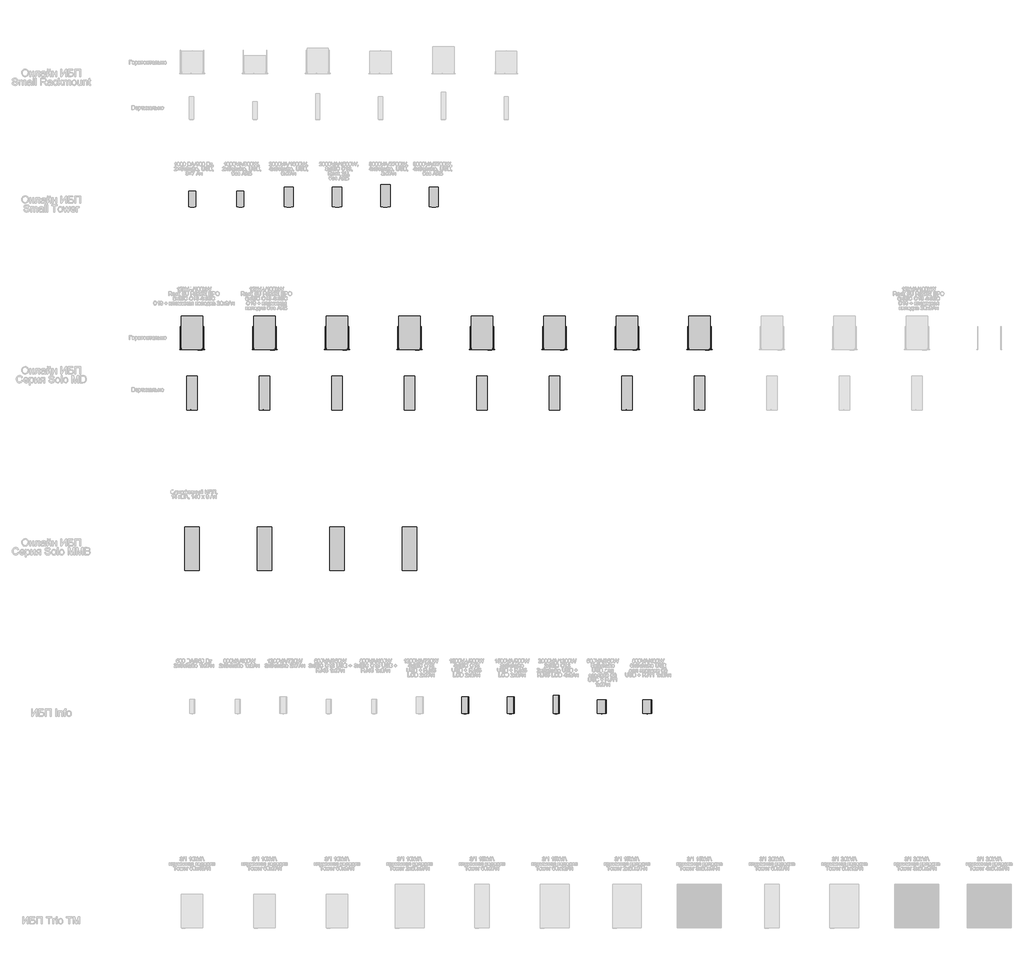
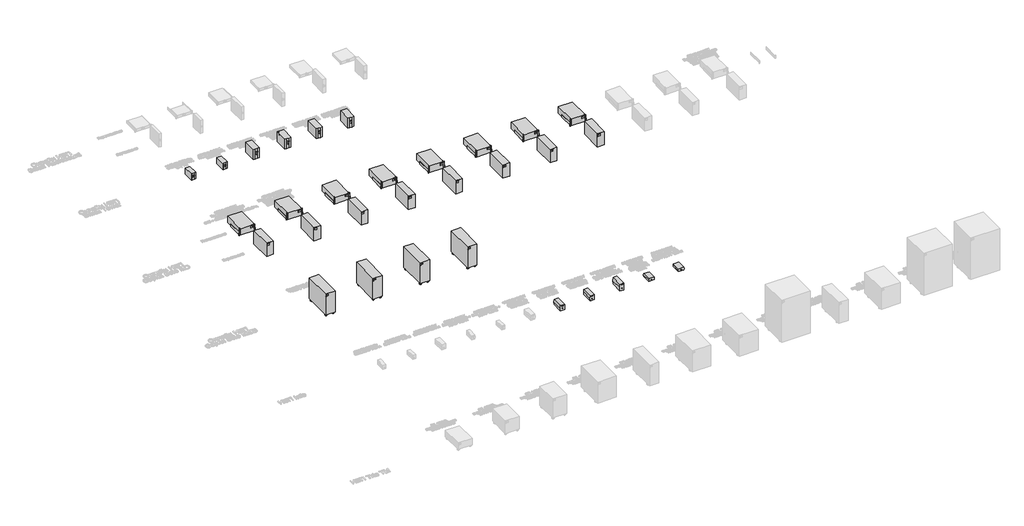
# One storey, part 2 of 74: 138 proxies.
"""IFC4 building model written with IfcOpenShell, lengths in millimetres."""

from ifc_helpers import new_model, si_unit, origin, place, context, project, spatial, transform, mapped, element, save
from components import electrical_equipment_6c59c8ee, electrical_equipment_fbf8d0cd, electrical_equipment_228549ca, electrical_equipment_7379c805, electrical_equipment_2a145548, electrical_equipment_1890145e, electrical_equipment_459813d2, electrical_equipment_41c59be0, electrical_equipment_2c9e7c44, electrical_equipment_71196d91, electrical_equipment_f6df29bd, electrical_equipment_1e044531, electrical_equipment_7d37a404, as400_464786aa

model = new_model("IFC4")

# Units and contexts
model_context = context("Model", 3, world=origin())
ifc_project = project(units=[si_unit("LENGTHUNIT", "METRE", prefix="MILLI")], contexts=[model_context])

# Site, building, storey
site = spatial("IfcSite", under=ifc_project)
building = spatial("IfcBuilding", under=site)
storey = spatial("IfcBuildingStorey", under=building, Name="Этаж 01", Elevation=0.0)

# Proxies
placement = place(None, origin())
electrical_equipment_shape = electrical_equipment_6c59c8ee(model_context)
element("IfcBuildingElementProxy", 1, Name="Ролики серия Solo : FONRMMD", ObjectType="Ролики серия Solo : FONRMMD", at=placement, inside=storey, context=model_context, shape_type="MappedRepresentation", body=[
    mapped(electrical_equipment_shape, transform((1352.6732678, -8665.8717328, 0.0), x_axis=(-1.0, 0.0, 0.0), y_axis=(0.0, -1.0, 0.0), z_axis=(0.0, 0.0, 1.0))),
])
element("IfcBuildingElementProxy", 2, Name="Ролики серия Solo : FONRMMD", ObjectType="Ролики серия Solo : FONRMMD", at=placement, inside=storey, context=model_context, shape_type="MappedRepresentation", body=[
    mapped(electrical_equipment_shape, transform((2852.6732678, -8665.8717328, 0.0), x_axis=(-1.0, 0.0, 0.0), y_axis=(0.0, -1.0, 0.0), z_axis=(0.0, 0.0, 1.0))),
])
element("IfcBuildingElementProxy", 3, Name="Ролики серия Solo : FONRMMD", ObjectType="Ролики серия Solo : FONRMMD", at=placement, inside=storey, context=model_context, shape_type="MappedRepresentation", body=[
    mapped(electrical_equipment_shape, transform((4352.6732678, -8665.8717328, 0.0), x_axis=(-1.0, 0.0, 0.0), y_axis=(0.0, -1.0, 0.0), z_axis=(0.0, 0.0, 1.0))),
])
element("IfcBuildingElementProxy", 4, Name="Ролики серия Solo : FONRMMD", ObjectType="Ролики серия Solo : FONRMMD", at=placement, inside=storey, context=model_context, shape_type="MappedRepresentation", body=[
    mapped(electrical_equipment_shape, transform((5852.6732678, -8665.8717328, 0.0), x_axis=(-1.0, 0.0, 0.0), y_axis=(0.0, -1.0, 0.0), z_axis=(0.0, 0.0, 1.0))),
])
electrical_equipment_2_shape = electrical_equipment_fbf8d0cd(model_context)
element("IfcBuildingElementProxy", 5, Name="НВО_КНС_ОнлайнИБПSmallTower_DKC : 1000 ВА", ObjectType="НВО_КНС_ОнлайнИБПSmallTower_DKC : 1000 ВА", at=placement, inside=storey, context=model_context, shape_type="MappedRepresentation", body=[
    mapped(electrical_equipment_2_shape, transform((1352.6732678, -1593.7898298, 0.0), x_axis=(1.0, 0.0, 0.0), y_axis=(0.0, 1.0, 0.0), z_axis=(0.0, 0.0, 1.0))),
])
electrical_equipment_3_shape = electrical_equipment_228549ca(model_context)
element("IfcBuildingElementProxy", 6, Name="НВО_КНС_ОнлайнИБПSmallTower_DKC : 2000 ВА", ObjectType="НВО_КНС_ОнлайнИБПSmallTower_DKC : 2000 ВА", at=placement, inside=storey, context=model_context, shape_type="MappedRepresentation", body=[
    mapped(electrical_equipment_3_shape, transform((3352.6732678, -1593.7898298, 0.0), x_axis=(1.0, 0.0, 0.0), y_axis=(0.0, 1.0, 0.0), z_axis=(0.0, 0.0, 1.0))),
])
element("IfcBuildingElementProxy", 7, Name="НВО_КНС_ОнлайнИБПSmallTower_DKC : 2000 ВА, без АКБ", ObjectType="НВО_КНС_ОнлайнИБПSmallTower_DKC : 2000 ВА, без АКБ", at=placement, inside=storey, context=model_context, shape_type="MappedRepresentation", body=[
    mapped(electrical_equipment_3_shape, transform((4352.6732678, -1593.7898298, 0.0), x_axis=(1.0, 0.0, 0.0), y_axis=(0.0, 1.0, 0.0), z_axis=(0.0, 0.0, 1.0))),
])
electrical_equipment_4_shape = electrical_equipment_7379c805(model_context)
element("IfcBuildingElementProxy", 8, Name="НВО_КНС_ОнлайнИБПSmallTower_DKC : 3000 ВА", ObjectType="НВО_КНС_ОнлайнИБПSmallTower_DKC : 3000 ВА", at=placement, inside=storey, context=model_context, shape_type="MappedRepresentation", body=[
    mapped(electrical_equipment_4_shape, transform((5352.6732678, -1593.7898298, 0.0), x_axis=(1.0, 0.0, 0.0), y_axis=(0.0, 1.0, 0.0), z_axis=(0.0, 0.0, 1.0))),
])
element("IfcBuildingElementProxy", 9, Name="НВО_КНС_ОнлайнИБПSmallTower_DKC : 3000 ВА, без АКБ", ObjectType="НВО_КНС_ОнлайнИБПSmallTower_DKC : 3000 ВА, без АКБ", at=placement, inside=storey, context=model_context, shape_type="MappedRepresentation", body=[
    mapped(electrical_equipment_3_shape, transform((6352.6732678, -1593.7898298, 0.0), x_axis=(1.0, 0.0, 0.0), y_axis=(0.0, 1.0, 0.0), z_axis=(0.0, 0.0, 1.0))),
])
electrical_equipment_5_shape = electrical_equipment_2a145548(model_context)
element("IfcBuildingElementProxy", 10, Name="НВО_КНС_ОнлайнИБПСерияSoloMD_DKC : Solo MD 12kVA/108kW без АКБ", ObjectType="НВО_КНС_ОнлайнИБПСерияSoloMD_DKC : Solo MD 12kVA/108kW без АКБ", at=placement, inside=storey, context=model_context, shape_type="MappedRepresentation", body=[
    mapped(electrical_equipment_5_shape, transform((2852.6732678, -4545.8084587, 0.0), x_axis=(1.0, 0.0, 0.0), y_axis=(0.0, 1.0, 0.0), z_axis=(0.0, 0.0, 1.0))),
])
element("IfcBuildingElementProxy", 11, Name="НВО_КНС_ОнлайнИБПСерияSoloMD_DKC : Solo MD 4000VA/3600W без АКБ", ObjectType="НВО_КНС_ОнлайнИБПСерияSoloMD_DKC : Solo MD 4000VA/3600W без АКБ", at=placement, inside=storey, context=model_context, shape_type="MappedRepresentation", body=[
    mapped(electrical_equipment_5_shape, transform((11852.6732678, -4545.8084587, 0.0), x_axis=(1.0, 0.0, 0.0), y_axis=(0.0, 1.0, 0.0), z_axis=(0.0, 0.0, 1.0))),
])
element("IfcBuildingElementProxy", 12, Name="НВО_КНС_ОнлайнИБПСерияSoloMD_DKC : Solo MD 4000VA/3600W 12x7Ач", ObjectType="НВО_КНС_ОнлайнИБПСерияSoloMD_DKC : Solo MD 4000VA/3600W 12x7Ач", at=placement, inside=storey, context=model_context, shape_type="MappedRepresentation", body=[
    mapped(electrical_equipment_5_shape, transform((7352.6732678, -4545.8084587, 0.0), x_axis=(1.0, 0.0, 0.0), y_axis=(0.0, 1.0, 0.0), z_axis=(0.0, 0.0, 1.0))),
])
element("IfcBuildingElementProxy", 13, Name="НВО_КНС_ОнлайнИБПСерияSoloMD_DKC : Solo MD 4000VA/3600W 15x7Ач", ObjectType="НВО_КНС_ОнлайнИБПСерияSoloMD_DKC : Solo MD 4000VA/3600W 15x7Ач", at=placement, inside=storey, context=model_context, shape_type="MappedRepresentation", body=[
    mapped(electrical_equipment_5_shape, transform((8852.6732678, -4545.8084587, 0.0), x_axis=(1.0, 0.0, 0.0), y_axis=(0.0, 1.0, 0.0), z_axis=(0.0, 0.0, 1.0))),
])
element("IfcBuildingElementProxy", 14, Name="НВО_КНС_ОнлайнИБПСерияSoloMD_DKC : Solo MD 4000VA/3600W 15x9Ач", ObjectType="НВО_КНС_ОнлайнИБПСерияSoloMD_DKC : Solo MD 4000VA/3600W 15x9Ач", at=placement, inside=storey, context=model_context, shape_type="MappedRepresentation", body=[
    mapped(electrical_equipment_5_shape, transform((10352.6732678, -4545.8084587, 0.0), x_axis=(1.0, 0.0, 0.0), y_axis=(0.0, 1.0, 0.0), z_axis=(0.0, 0.0, 1.0))),
])
element("IfcBuildingElementProxy", 15, Name="НВО_КНС_ОнлайнИБПСерияSoloMD_DKC : Solo MD 4000VA/3600W 2x15x7Ач", ObjectType="НВО_КНС_ОнлайнИБПСерияSoloMD_DKC : Solo MD 4000VA/3600W 2x15x7Ач", at=placement, inside=storey, context=model_context, shape_type="MappedRepresentation", body=[
    mapped(electrical_equipment_5_shape, transform((4352.6732678, -4545.8084587, 0.0), x_axis=(1.0, 0.0, 0.0), y_axis=(0.0, 1.0, 0.0), z_axis=(0.0, 0.0, 1.0))),
])
element("IfcBuildingElementProxy", 16, Name="НВО_КНС_ОнлайнИБПСерияSoloMD_DKC : Solo MD 4000VA/3600W 2x15x9Ач", ObjectType="НВО_КНС_ОнлайнИБПСерияSoloMD_DKC : Solo MD 4000VA/3600W 2x15x9Ач", at=placement, inside=storey, context=model_context, shape_type="MappedRepresentation", body=[
    mapped(electrical_equipment_5_shape, transform((5852.6732678, -4545.8084587, 0.0), x_axis=(1.0, 0.0, 0.0), y_axis=(0.0, 1.0, 0.0), z_axis=(0.0, 0.0, 1.0))),
])
electrical_equipment_6_shape = electrical_equipment_1890145e(model_context)
element("IfcBuildingElementProxy", 17, Name="НВО_КНС_ОнлайнИБПСерияSoloMD_DKC : Solo MD 12kVA/108kW 20x9Ач", ObjectType="НВО_КНС_ОнлайнИБПСерияSoloMD_DKC : Solo MD 12kVA/108kW 20x9Ач", at=placement, inside=storey, context=model_context, shape_type="MappedRepresentation", body=[
    mapped(electrical_equipment_6_shape, transform((1352.6732678, -5790.8873535, 0.0), x_axis=(1.0, 0.0, 0.0), y_axis=(0.0, 1.0, 0.0), z_axis=(0.0, 0.0, 1.0))),
])
element("IfcBuildingElementProxy", 18, Name="НВО_КНС_ОнлайнИБПСерияSoloMD_DKC : Solo MD 12kVA/108kW без АКБ", ObjectType="НВО_КНС_ОнлайнИБПСерияSoloMD_DKC : Solo MD 12kVA/108kW без АКБ", at=placement, inside=storey, context=model_context, shape_type="MappedRepresentation", body=[
    mapped(electrical_equipment_6_shape, transform((2852.6732678, -5790.8873535, 0.0), x_axis=(1.0, 0.0, 0.0), y_axis=(0.0, 1.0, 0.0), z_axis=(0.0, 0.0, 1.0))),
])
element("IfcBuildingElementProxy", 19, Name="НВО_КНС_ОнлайнИБПСерияSoloMD_DKC : Solo MD 4000VA/3600W 2x15x7Ач", ObjectType="НВО_КНС_ОнлайнИБПСерияSoloMD_DKC : Solo MD 4000VA/3600W 2x15x7Ач", at=placement, inside=storey, context=model_context, shape_type="MappedRepresentation", body=[
    mapped(electrical_equipment_6_shape, transform((4352.6732678, -5790.8873535, 0.0), x_axis=(1.0, 0.0, 0.0), y_axis=(0.0, 1.0, 0.0), z_axis=(0.0, 0.0, 1.0))),
])
element("IfcBuildingElementProxy", 20, Name="НВО_КНС_ОнлайнИБПСерияSoloMD_DKC : Solo MD 4000VA/3600W 2x15x9Ач", ObjectType="НВО_КНС_ОнлайнИБПСерияSoloMD_DKC : Solo MD 4000VA/3600W 2x15x9Ач", at=placement, inside=storey, context=model_context, shape_type="MappedRepresentation", body=[
    mapped(electrical_equipment_6_shape, transform((5852.6732678, -5790.8873535, 0.0), x_axis=(1.0, 0.0, 0.0), y_axis=(0.0, 1.0, 0.0), z_axis=(0.0, 0.0, 1.0))),
])
element("IfcBuildingElementProxy", 21, Name="НВО_КНС_ОнлайнИБПСерияSoloMD_DKC : Solo MD 4000VA/3600W 12x7Ач", ObjectType="НВО_КНС_ОнлайнИБПСерияSoloMD_DKC : Solo MD 4000VA/3600W 12x7Ач", at=placement, inside=storey, context=model_context, shape_type="MappedRepresentation", body=[
    mapped(electrical_equipment_6_shape, transform((7352.6732678, -5790.8873535, 0.0), x_axis=(1.0, 0.0, 0.0), y_axis=(0.0, 1.0, 0.0), z_axis=(0.0, 0.0, 1.0))),
])
element("IfcBuildingElementProxy", 22, Name="НВО_КНС_ОнлайнИБПСерияSoloMD_DKC : Solo MD 4000VA/3600W 15x7Ач", ObjectType="НВО_КНС_ОнлайнИБПСерияSoloMD_DKC : Solo MD 4000VA/3600W 15x7Ач", at=placement, inside=storey, context=model_context, shape_type="MappedRepresentation", body=[
    mapped(electrical_equipment_6_shape, transform((8852.6732678, -5790.8873535, 0.0), x_axis=(1.0, 0.0, 0.0), y_axis=(0.0, 1.0, 0.0), z_axis=(0.0, 0.0, 1.0))),
])
element("IfcBuildingElementProxy", 23, Name="НВО_КНС_ОнлайнИБПСерияSoloMD_DKC : Solo MD 4000VA/3600W 15x9Ач", ObjectType="НВО_КНС_ОнлайнИБПСерияSoloMD_DKC : Solo MD 4000VA/3600W 15x9Ач", at=placement, inside=storey, context=model_context, shape_type="MappedRepresentation", body=[
    mapped(electrical_equipment_6_shape, transform((10352.6732678, -5790.8873535, 0.0), x_axis=(1.0, 0.0, 0.0), y_axis=(0.0, 1.0, 0.0), z_axis=(0.0, 0.0, 1.0))),
])
element("IfcBuildingElementProxy", 24, Name="НВО_КНС_ОнлайнИБПСерияSoloMD_DKC : Solo MD 4000VA/3600W без АКБ", ObjectType="НВО_КНС_ОнлайнИБПСерияSoloMD_DKC : Solo MD 4000VA/3600W без АКБ", at=placement, inside=storey, context=model_context, shape_type="MappedRepresentation", body=[
    mapped(electrical_equipment_6_shape, transform((11852.6732678, -5790.8873535, 0.0), x_axis=(1.0, 0.0, 0.0), y_axis=(0.0, 1.0, 0.0), z_axis=(0.0, 0.0, 1.0))),
])
electrical_equipment_7_shape = electrical_equipment_459813d2(model_context)
element("IfcBuildingElementProxy", 25, Name="НВО_КНС_ИБПInfo_DKC : INFOLCD1500I", ObjectType="НВО_КНС_ИБПInfo_DKC : INFOLCD1500I", at=placement, inside=storey, context=model_context, shape_type="MappedRepresentation", body=[
    mapped(electrical_equipment_7_shape, transform((7003.5013447, -12079.9980002, 0.0), x_axis=(1.0, 0.0, 0.0), y_axis=(0.0, 1.0, 0.0), z_axis=(0.0, 0.0, 1.0))),
])
element("IfcBuildingElementProxy", 26, Name="НВО_КНС_ИБПInfo_DKC : INFOLCD1500S", ObjectType="НВО_КНС_ИБПInfo_DKC : INFOLCD1500S", at=placement, inside=storey, context=model_context, shape_type="MappedRepresentation", body=[
    mapped(electrical_equipment_7_shape, transform((7945.047771, -12079.9980002, 0.0), x_axis=(1.0, 0.0, 0.0), y_axis=(0.0, 1.0, 0.0), z_axis=(0.0, 0.0, 1.0))),
])
electrical_equipment_8_shape = electrical_equipment_41c59be0(model_context)
element("IfcBuildingElementProxy", 27, Name="НВО_КНС_ИБПInfo_DKC : INFOPDU600", ObjectType="НВО_КНС_ИБПInfo_DKC : INFOPDU600", at=placement, inside=storey, context=model_context, shape_type="MappedRepresentation", body=[
    mapped(electrical_equipment_8_shape, transform((9828.1406236, -12079.9980002, 0.0), x_axis=(1.0, 0.0, 0.0), y_axis=(0.0, 1.0, 0.0), z_axis=(0.0, 0.0, 1.0))),
])
element("IfcBuildingElementProxy", 28, Name="НВО_КНС_ИБПInfo_DKC : INFOPDU800", ObjectType="НВО_КНС_ИБПInfo_DKC : INFOPDU800", at=placement, inside=storey, context=model_context, shape_type="MappedRepresentation", body=[
    mapped(electrical_equipment_8_shape, transform((10769.68705, -12079.9980002, 0.0), x_axis=(1.0, 0.0, 0.0), y_axis=(0.0, 1.0, 0.0), z_axis=(0.0, 0.0, 1.0))),
])
electrical_equipment_9_shape = electrical_equipment_2c9e7c44(model_context)
element("IfcBuildingElementProxy", 29, Name="Рельсы для ИБП RAILSMLR : RAILSMLR", ObjectType="Рельсы для ИБП RAILSMLR : RAILSMLR", at=placement, inside=storey, context=model_context, shape_type="MappedRepresentation", body=[
    mapped(electrical_equipment_9_shape, transform((1352.6732678, -4543.8084587, 0.0), x_axis=(1.0, 0.0, 0.0), y_axis=(0.0, 1.0, 0.0), z_axis=(0.0, 0.0, 1.0))),
])
element("IfcBuildingElementProxy", 30, Name="Рельсы для ИБП RAILSMLR : RAILSMLR", ObjectType="Рельсы для ИБП RAILSMLR : RAILSMLR", at=placement, inside=storey, context=model_context, shape_type="MappedRepresentation", body=[
    mapped(electrical_equipment_9_shape, transform((2852.6732678, -4543.8084587, 0.0), x_axis=(1.0, 0.0, 0.0), y_axis=(0.0, 1.0, 0.0), z_axis=(0.0, 0.0, 1.0))),
])
element("IfcBuildingElementProxy", 31, Name="Рельсы для ИБП RAILSMLR : RAILSMLR", ObjectType="Рельсы для ИБП RAILSMLR : RAILSMLR", at=placement, inside=storey, context=model_context, shape_type="MappedRepresentation", body=[
    mapped(electrical_equipment_9_shape, transform((4352.6732678, -4543.8084587, 0.0), x_axis=(1.0, 0.0, 0.0), y_axis=(0.0, 1.0, 0.0), z_axis=(0.0, 0.0, 1.0))),
])
element("IfcBuildingElementProxy", 32, Name="Рельсы для ИБП RAILSMLR : RAILSMLR", ObjectType="Рельсы для ИБП RAILSMLR : RAILSMLR", at=placement, inside=storey, context=model_context, shape_type="MappedRepresentation", body=[
    mapped(electrical_equipment_9_shape, transform((5852.6732678, -4543.8084587, 0.0), x_axis=(1.0, 0.0, 0.0), y_axis=(0.0, 1.0, 0.0), z_axis=(0.0, 0.0, 1.0))),
])
element("IfcBuildingElementProxy", 33, Name="Рельсы для ИБП RAILSMLR : RAILSMLR", ObjectType="Рельсы для ИБП RAILSMLR : RAILSMLR", at=placement, inside=storey, context=model_context, shape_type="MappedRepresentation", body=[
    mapped(electrical_equipment_9_shape, transform((7352.6732678, -4543.8084587, 0.0), x_axis=(1.0, 0.0, 0.0), y_axis=(0.0, 1.0, 0.0), z_axis=(0.0, 0.0, 1.0))),
])
element("IfcBuildingElementProxy", 34, Name="Рельсы для ИБП RAILSMLR : RAILSMLR", ObjectType="Рельсы для ИБП RAILSMLR : RAILSMLR", at=placement, inside=storey, context=model_context, shape_type="MappedRepresentation", body=[
    mapped(electrical_equipment_9_shape, transform((8852.6732678, -4543.8084587, 0.0), x_axis=(1.0, 0.0, 0.0), y_axis=(0.0, 1.0, 0.0), z_axis=(0.0, 0.0, 1.0))),
])
element("IfcBuildingElementProxy", 35, Name="Рельсы для ИБП RAILSMLR : RAILSMLR", ObjectType="Рельсы для ИБП RAILSMLR : RAILSMLR", at=placement, inside=storey, context=model_context, shape_type="MappedRepresentation", body=[
    mapped(electrical_equipment_9_shape, transform((10352.6732678, -4543.8084587, 0.0), x_axis=(1.0, 0.0, 0.0), y_axis=(0.0, 1.0, 0.0), z_axis=(0.0, 0.0, 1.0))),
])
element("IfcBuildingElementProxy", 36, Name="Рельсы для ИБП RAILSMLR : RAILSMLR", ObjectType="Рельсы для ИБП RAILSMLR : RAILSMLR", at=placement, inside=storey, context=model_context, shape_type="MappedRepresentation", body=[
    mapped(electrical_equipment_9_shape, transform((11852.6732678, -4543.8084587, 0.0), x_axis=(1.0, 0.0, 0.0), y_axis=(0.0, 1.0, 0.0), z_axis=(0.0, 0.0, 1.0))),
])
electrical_equipment_10_shape = electrical_equipment_71196d91(model_context)
element("IfcBuildingElementProxy", 37, Name="Внешний переключатель байпаса MBSSMLR : MBSSMLR", ObjectType="Внешний переключатель байпаса MBSSMLR : MBSSMLR", at=placement, inside=storey, context=model_context, shape_type="MappedRepresentation", body=[
    mapped(electrical_equipment_10_shape, transform((1352.6732678, -1257.7898298, 0.0), x_axis=(1.0, 0.0, 0.0), y_axis=(0.0, 1.0, 0.0), z_axis=(0.0, 0.0, 1.0))),
])
element("IfcBuildingElementProxy", 38, Name="Внешний переключатель байпаса MBSSMLR : MBSSMLR", ObjectType="Внешний переключатель байпаса MBSSMLR : MBSSMLR", at=placement, inside=storey, context=model_context, shape_type="MappedRepresentation", body=[
    mapped(electrical_equipment_10_shape, transform((1352.6732678, -11789.9980002, 0.0), x_axis=(1.0, 0.0, 0.0), y_axis=(0.0, 1.0, 0.0), z_axis=(0.0, 0.0, 1.0))),
])
element("IfcBuildingElementProxy", 39, Name="Внешний переключатель байпаса MBSSMLR : MBSSMLR", ObjectType="Внешний переключатель байпаса MBSSMLR : MBSSMLR", at=placement, inside=storey, context=model_context, shape_type="MappedRepresentation", body=[
    mapped(electrical_equipment_10_shape, transform((2295.7692131, -11789.9980002, 0.0), x_axis=(1.0, 0.0, 0.0), y_axis=(0.0, 1.0, 0.0), z_axis=(0.0, 0.0, 1.0))),
])
element("IfcBuildingElementProxy", 40, Name="Внешний переключатель байпаса MBSSMLR : MBSSMLR", ObjectType="Внешний переключатель байпаса MBSSMLR : MBSSMLR", at=placement, inside=storey, context=model_context, shape_type="MappedRepresentation", body=[
    mapped(electrical_equipment_10_shape, transform((2352.6732678, -1257.7898298, 0.0), x_axis=(1.0, 0.0, 0.0), y_axis=(0.0, 1.0, 0.0), z_axis=(0.0, 0.0, 1.0))),
])
element("IfcBuildingElementProxy", 41, Name="Внешний переключатель байпаса MBSSMLR : MBSSMLR", ObjectType="Внешний переключатель байпаса MBSSMLR : MBSSMLR", at=placement, inside=storey, context=model_context, shape_type="MappedRepresentation", body=[
    mapped(electrical_equipment_10_shape, transform((3352.6732678, -1175.7898298, 0.0), x_axis=(1.0, 0.0, 0.0), y_axis=(0.0, 1.0, 0.0), z_axis=(0.0, 0.0, 1.0))),
])
element("IfcBuildingElementProxy", 42, Name="Внешний переключатель байпаса MBSSMLR : MBSSMLR", ObjectType="Внешний переключатель байпаса MBSSMLR : MBSSMLR", at=placement, inside=storey, context=model_context, shape_type="MappedRepresentation", body=[
    mapped(electrical_equipment_10_shape, transform((4352.6732678, -1175.7898298, 0.0), x_axis=(1.0, 0.0, 0.0), y_axis=(0.0, 1.0, 0.0), z_axis=(0.0, 0.0, 1.0))),
])
element("IfcBuildingElementProxy", 43, Name="Внешний переключатель байпаса MBSSMLR : MBSSMLR", ObjectType="Внешний переключатель байпаса MBSSMLR : MBSSMLR", at=placement, inside=storey, context=model_context, shape_type="MappedRepresentation", body=[
    mapped(electrical_equipment_10_shape, transform((5352.6732678, -1129.7898298, 0.0), x_axis=(1.0, 0.0, 0.0), y_axis=(0.0, 1.0, 0.0), z_axis=(0.0, 0.0, 1.0))),
])
element("IfcBuildingElementProxy", 44, Name="Внешний переключатель байпаса MBSSMLR : MBSSMLR", ObjectType="Внешний переключатель байпаса MBSSMLR : MBSSMLR", at=placement, inside=storey, context=model_context, shape_type="MappedRepresentation", body=[
    mapped(electrical_equipment_10_shape, transform((6352.6732678, -1175.7898298, 0.0), x_axis=(1.0, 0.0, 0.0), y_axis=(0.0, 1.0, 0.0), z_axis=(0.0, 0.0, 1.0))),
])
element("IfcBuildingElementProxy", 45, Name="Внешний переключатель байпаса MBSSMLR : MBSSMLR", ObjectType="Внешний переключатель байпаса MBSSMLR : MBSSMLR", at=placement, inside=storey, context=model_context, shape_type="MappedRepresentation", body=[
    mapped(electrical_equipment_10_shape, transform((3237.3156394, -11734.9980002, 0.0), x_axis=(1.0, 0.0, 0.0), y_axis=(0.0, 1.0, 0.0), z_axis=(0.0, 0.0, 1.0))),
])
element("IfcBuildingElementProxy", 46, Name="Внешний переключатель байпаса MBSSMLR : MBSSMLR", ObjectType="Внешний переключатель байпаса MBSSMLR : MBSSMLR", at=placement, inside=storey, context=model_context, shape_type="MappedRepresentation", body=[
    mapped(electrical_equipment_10_shape, transform((4178.8620657, -11789.9980002, 0.0), x_axis=(1.0, 0.0, 0.0), y_axis=(0.0, 1.0, 0.0), z_axis=(0.0, 0.0, 1.0))),
])
element("IfcBuildingElementProxy", 47, Name="Внешний переключатель байпаса MBSSMLR : MBSSMLR", ObjectType="Внешний переключатель байпаса MBSSMLR : MBSSMLR", at=placement, inside=storey, context=model_context, shape_type="MappedRepresentation", body=[
    mapped(electrical_equipment_10_shape, transform((5120.408492, -11789.9980002, 0.0), x_axis=(1.0, 0.0, 0.0), y_axis=(0.0, 1.0, 0.0), z_axis=(0.0, 0.0, 1.0))),
])
element("IfcBuildingElementProxy", 48, Name="Внешний переключатель байпаса MBSSMLR : MBSSMLR", ObjectType="Внешний переключатель байпаса MBSSMLR : MBSSMLR", at=placement, inside=storey, context=model_context, shape_type="MappedRepresentation", body=[
    mapped(electrical_equipment_10_shape, transform((6061.9549183, -11734.9980002, 0.0), x_axis=(1.0, 0.0, 0.0), y_axis=(0.0, 1.0, 0.0), z_axis=(0.0, 0.0, 1.0))),
])
element("IfcBuildingElementProxy", 49, Name="Внешний переключатель байпаса MBSSMLR : MBSSMLR", ObjectType="Внешний переключатель байпаса MBSSMLR : MBSSMLR", at=placement, inside=storey, context=model_context, shape_type="MappedRepresentation", body=[
    mapped(electrical_equipment_10_shape, transform((7003.5013447, -11734.9980002, 0.0), x_axis=(1.0, 0.0, 0.0), y_axis=(0.0, 1.0, 0.0), z_axis=(0.0, 0.0, 1.0))),
])
element("IfcBuildingElementProxy", 50, Name="Внешний переключатель байпаса MBSSMLR : MBSSMLR", ObjectType="Внешний переключатель байпаса MBSSMLR : MBSSMLR", at=placement, inside=storey, context=model_context, shape_type="MappedRepresentation", body=[
    mapped(electrical_equipment_10_shape, transform((7945.047771, -11734.9980002, 0.0), x_axis=(1.0, 0.0, 0.0), y_axis=(0.0, 1.0, 0.0), z_axis=(0.0, 0.0, 1.0))),
])
element("IfcBuildingElementProxy", 51, Name="Внешний переключатель байпаса MBSSMLR : MBSSMLR", ObjectType="Внешний переключатель байпаса MBSSMLR : MBSSMLR", at=placement, inside=storey, context=model_context, shape_type="MappedRepresentation", body=[
    mapped(electrical_equipment_10_shape, transform((8886.5941973, -11699.9980002, 0.0), x_axis=(1.0, 0.0, 0.0), y_axis=(0.0, 1.0, 0.0), z_axis=(0.0, 0.0, 1.0))),
])
element("IfcBuildingElementProxy", 52, Name="Внешний переключатель байпаса MBSSMLR : MBSSMLR", ObjectType="Внешний переключатель байпаса MBSSMLR : MBSSMLR", at=placement, inside=storey, context=model_context, shape_type="MappedRepresentation", body=[
    mapped(electrical_equipment_10_shape, transform((9828.1406236, -11799.9980002, 0.0), x_axis=(1.0, 0.0, 0.0), y_axis=(0.0, 1.0, 0.0), z_axis=(0.0, 0.0, 1.0))),
])
element("IfcBuildingElementProxy", 53, Name="Внешний переключатель байпаса MBSSMLR : MBSSMLR", ObjectType="Внешний переключатель байпаса MBSSMLR : MBSSMLR", at=placement, inside=storey, context=model_context, shape_type="MappedRepresentation", body=[
    mapped(electrical_equipment_10_shape, transform((10769.68705, -11799.9980002, 0.0), x_axis=(1.0, 0.0, 0.0), y_axis=(0.0, 1.0, 0.0), z_axis=(0.0, 0.0, 1.0))),
])
electrical_equipment_11_shape = electrical_equipment_f6df29bd(model_context)
element("IfcBuildingElementProxy", 54, Name="Адаптер SNMPSM2 : SNMPSM2", ObjectType="Адаптер SNMPSM2 : SNMPSM2", at=placement, inside=storey, context=model_context, shape_type="MappedRepresentation", body=[
    mapped(electrical_equipment_11_shape, transform((1352.6732678, -1257.7898298, 0.0), x_axis=(1.0, 0.0, 0.0), y_axis=(0.0, 1.0, 0.0), z_axis=(0.0, 0.0, 1.0))),
])
element("IfcBuildingElementProxy", 55, Name="Адаптер SNMPSM2 : SNMPSM2", ObjectType="Адаптер SNMPSM2 : SNMPSM2", at=placement, inside=storey, context=model_context, shape_type="MappedRepresentation", body=[
    mapped(electrical_equipment_11_shape, transform((1352.6732678, -11789.9980002, 0.0), x_axis=(1.0, 0.0, 0.0), y_axis=(0.0, 1.0, 0.0), z_axis=(0.0, 0.0, 1.0))),
])
element("IfcBuildingElementProxy", 56, Name="Адаптер SNMPSM2 : SNMPSM2", ObjectType="Адаптер SNMPSM2 : SNMPSM2", at=placement, inside=storey, context=model_context, shape_type="MappedRepresentation", body=[
    mapped(electrical_equipment_11_shape, transform((2295.7692131, -11789.9980002, 0.0), x_axis=(1.0, 0.0, 0.0), y_axis=(0.0, 1.0, 0.0), z_axis=(0.0, 0.0, 1.0))),
])
element("IfcBuildingElementProxy", 57, Name="Адаптер SNMPSM2 : SNMPSM2", ObjectType="Адаптер SNMPSM2 : SNMPSM2", at=placement, inside=storey, context=model_context, shape_type="MappedRepresentation", body=[
    mapped(electrical_equipment_11_shape, transform((2352.6732678, -1257.7898298, 0.0), x_axis=(1.0, 0.0, 0.0), y_axis=(0.0, 1.0, 0.0), z_axis=(0.0, 0.0, 1.0))),
])
element("IfcBuildingElementProxy", 58, Name="Адаптер SNMPSM2 : SNMPSM2", ObjectType="Адаптер SNMPSM2 : SNMPSM2", at=placement, inside=storey, context=model_context, shape_type="MappedRepresentation", body=[
    mapped(electrical_equipment_11_shape, transform((3352.6732678, -1175.7898298, 0.0), x_axis=(1.0, 0.0, 0.0), y_axis=(0.0, 1.0, 0.0), z_axis=(0.0, 0.0, 1.0))),
])
element("IfcBuildingElementProxy", 59, Name="Адаптер SNMPSM2 : SNMPSM2", ObjectType="Адаптер SNMPSM2 : SNMPSM2", at=placement, inside=storey, context=model_context, shape_type="MappedRepresentation", body=[
    mapped(electrical_equipment_11_shape, transform((4352.6732678, -1175.7898298, 0.0), x_axis=(1.0, 0.0, 0.0), y_axis=(0.0, 1.0, 0.0), z_axis=(0.0, 0.0, 1.0))),
])
element("IfcBuildingElementProxy", 60, Name="Адаптер SNMPSM2 : SNMPSM2", ObjectType="Адаптер SNMPSM2 : SNMPSM2", at=placement, inside=storey, context=model_context, shape_type="MappedRepresentation", body=[
    mapped(electrical_equipment_11_shape, transform((5352.6732678, -1129.7898298, 0.0), x_axis=(1.0, 0.0, 0.0), y_axis=(0.0, 1.0, 0.0), z_axis=(0.0, 0.0, 1.0))),
])
element("IfcBuildingElementProxy", 61, Name="Адаптер SNMPSM2 : SNMPSM2", ObjectType="Адаптер SNMPSM2 : SNMPSM2", at=placement, inside=storey, context=model_context, shape_type="MappedRepresentation", body=[
    mapped(electrical_equipment_11_shape, transform((6352.6732678, -1175.7898298, 0.0), x_axis=(1.0, 0.0, 0.0), y_axis=(0.0, 1.0, 0.0), z_axis=(0.0, 0.0, 1.0))),
])
element("IfcBuildingElementProxy", 62, Name="Адаптер SNMPSM2 : SNMPSM2", ObjectType="Адаптер SNMPSM2 : SNMPSM2", at=placement, inside=storey, context=model_context, shape_type="MappedRepresentation", body=[
    mapped(electrical_equipment_11_shape, transform((3237.3156394, -11734.9980002, 0.0), x_axis=(1.0, 0.0, 0.0), y_axis=(0.0, 1.0, 0.0), z_axis=(0.0, 0.0, 1.0))),
])
element("IfcBuildingElementProxy", 63, Name="Адаптер SNMPSM2 : SNMPSM2", ObjectType="Адаптер SNMPSM2 : SNMPSM2", at=placement, inside=storey, context=model_context, shape_type="MappedRepresentation", body=[
    mapped(electrical_equipment_11_shape, transform((4178.8620657, -11789.9980002, 0.0), x_axis=(1.0, 0.0, 0.0), y_axis=(0.0, 1.0, 0.0), z_axis=(0.0, 0.0, 1.0))),
])
element("IfcBuildingElementProxy", 64, Name="Адаптер SNMPSM2 : SNMPSM2", ObjectType="Адаптер SNMPSM2 : SNMPSM2", at=placement, inside=storey, context=model_context, shape_type="MappedRepresentation", body=[
    mapped(electrical_equipment_11_shape, transform((5120.408492, -11789.9980002, 0.0), x_axis=(1.0, 0.0, 0.0), y_axis=(0.0, 1.0, 0.0), z_axis=(0.0, 0.0, 1.0))),
])
element("IfcBuildingElementProxy", 65, Name="Адаптер SNMPSM2 : SNMPSM2", ObjectType="Адаптер SNMPSM2 : SNMPSM2", at=placement, inside=storey, context=model_context, shape_type="MappedRepresentation", body=[
    mapped(electrical_equipment_11_shape, transform((6061.9549183, -11734.9980002, 0.0), x_axis=(1.0, 0.0, 0.0), y_axis=(0.0, 1.0, 0.0), z_axis=(0.0, 0.0, 1.0))),
])
element("IfcBuildingElementProxy", 66, Name="Адаптер SNMPSM2 : SNMPSM2", ObjectType="Адаптер SNMPSM2 : SNMPSM2", at=placement, inside=storey, context=model_context, shape_type="MappedRepresentation", body=[
    mapped(electrical_equipment_11_shape, transform((7003.5013447, -11734.9980002, 0.0), x_axis=(1.0, 0.0, 0.0), y_axis=(0.0, 1.0, 0.0), z_axis=(0.0, 0.0, 1.0))),
])
element("IfcBuildingElementProxy", 67, Name="Адаптер SNMPSM2 : SNMPSM2", ObjectType="Адаптер SNMPSM2 : SNMPSM2", at=placement, inside=storey, context=model_context, shape_type="MappedRepresentation", body=[
    mapped(electrical_equipment_11_shape, transform((7945.047771, -11734.9980002, 0.0), x_axis=(1.0, 0.0, 0.0), y_axis=(0.0, 1.0, 0.0), z_axis=(0.0, 0.0, 1.0))),
])
element("IfcBuildingElementProxy", 68, Name="Адаптер SNMPSM2 : SNMPSM2", ObjectType="Адаптер SNMPSM2 : SNMPSM2", at=placement, inside=storey, context=model_context, shape_type="MappedRepresentation", body=[
    mapped(electrical_equipment_11_shape, transform((8886.5941973, -11699.9980002, 0.0), x_axis=(1.0, 0.0, 0.0), y_axis=(0.0, 1.0, 0.0), z_axis=(0.0, 0.0, 1.0))),
])
element("IfcBuildingElementProxy", 69, Name="Адаптер SNMPSM2 : SNMPSM2", ObjectType="Адаптер SNMPSM2 : SNMPSM2", at=placement, inside=storey, context=model_context, shape_type="MappedRepresentation", body=[
    mapped(electrical_equipment_11_shape, transform((9828.1406236, -11799.9980002, 0.0), x_axis=(1.0, 0.0, 0.0), y_axis=(0.0, 1.0, 0.0), z_axis=(0.0, 0.0, 1.0))),
])
element("IfcBuildingElementProxy", 70, Name="Адаптер SNMPSM2 : SNMPSM2", ObjectType="Адаптер SNMPSM2 : SNMPSM2", at=placement, inside=storey, context=model_context, shape_type="MappedRepresentation", body=[
    mapped(electrical_equipment_11_shape, transform((10769.68705, -11799.9980002, 0.0), x_axis=(1.0, 0.0, 0.0), y_axis=(0.0, 1.0, 0.0), z_axis=(0.0, 0.0, 1.0))),
])
element("IfcBuildingElementProxy", 71, Name="НВО_КНС_ОнлайнИБПSmallTower_DKC : 1000 ВА, без АКБ", ObjectType="НВО_КНС_ОнлайнИБПSmallTower_DKC : 1000 ВА, без АКБ", at=placement, inside=storey, context=model_context, shape_type="MappedRepresentation", body=[
    mapped(electrical_equipment_2_shape, transform((2352.6732678, -1593.7898298, 0.0), x_axis=(1.0, 0.0, 0.0), y_axis=(0.0, 1.0, 0.0), z_axis=(0.0, 0.0, 1.0))),
])
element("IfcBuildingElementProxy", 72, Name="Адаптер SNMPSM2 : SNMPMMD", ObjectType="Адаптер SNMPSM2 : SNMPMMD", at=placement, inside=storey, context=model_context, shape_type="MappedRepresentation", body=[
    mapped(electrical_equipment_11_shape, transform((1352.6732678, -8215.8717328, 70.0), x_axis=(1.0, 0.0, 0.0), y_axis=(0.0, 1.0, 0.0), z_axis=(0.0, 0.0, 1.0))),
])
element("IfcBuildingElementProxy", 73, Name="Адаптер SNMPSM2 : SNMPMMD", ObjectType="Адаптер SNMPSM2 : SNMPMMD", at=placement, inside=storey, context=model_context, shape_type="MappedRepresentation", body=[
    mapped(electrical_equipment_11_shape, transform((1352.6732678, -3845.8084587, 0.0), x_axis=(1.0, 0.0, 0.0), y_axis=(0.0, 1.0, 0.0), z_axis=(0.0, 0.0, 1.0))),
])
element("IfcBuildingElementProxy", 74, Name="Адаптер SNMPSM2 : SNMPMMD", ObjectType="Адаптер SNMPSM2 : SNMPMMD", at=placement, inside=storey, context=model_context, shape_type="MappedRepresentation", body=[
    mapped(electrical_equipment_11_shape, transform((2852.6732678, -3845.8084587, 0.0), x_axis=(1.0, 0.0, 0.0), y_axis=(0.0, 1.0, 0.0), z_axis=(0.0, 0.0, 1.0))),
])
element("IfcBuildingElementProxy", 75, Name="Адаптер SNMPSM2 : SNMPMMD", ObjectType="Адаптер SNMPSM2 : SNMPMMD", at=placement, inside=storey, context=model_context, shape_type="MappedRepresentation", body=[
    mapped(electrical_equipment_11_shape, transform((1352.6732678, -5090.8873535, 0.0), x_axis=(1.0, 0.0, 0.0), y_axis=(0.0, 1.0, 0.0), z_axis=(0.0, 0.0, 1.0))),
])
element("IfcBuildingElementProxy", 76, Name="Адаптер SNMPSM2 : SNMPMMD", ObjectType="Адаптер SNMPSM2 : SNMPMMD", at=placement, inside=storey, context=model_context, shape_type="MappedRepresentation", body=[
    mapped(electrical_equipment_11_shape, transform((2852.6732678, -5090.8873535, 0.0), x_axis=(1.0, 0.0, 0.0), y_axis=(0.0, 1.0, 0.0), z_axis=(0.0, 0.0, 1.0))),
])
element("IfcBuildingElementProxy", 77, Name="Адаптер SNMPSM2 : SNMPMMD", ObjectType="Адаптер SNMPSM2 : SNMPMMD", at=placement, inside=storey, context=model_context, shape_type="MappedRepresentation", body=[
    mapped(electrical_equipment_11_shape, transform((2852.6732678, -8215.8717328, 70.0), x_axis=(1.0, 0.0, 0.0), y_axis=(0.0, 1.0, 0.0), z_axis=(0.0, 0.0, 1.0))),
])
element("IfcBuildingElementProxy", 78, Name="Адаптер SNMPSM2 : SNMPMMD", ObjectType="Адаптер SNMPSM2 : SNMPMMD", at=placement, inside=storey, context=model_context, shape_type="MappedRepresentation", body=[
    mapped(electrical_equipment_11_shape, transform((4352.6732678, -8215.8717328, 70.0), x_axis=(1.0, 0.0, 0.0), y_axis=(0.0, 1.0, 0.0), z_axis=(0.0, 0.0, 1.0))),
])
element("IfcBuildingElementProxy", 79, Name="Адаптер SNMPSM2 : SNMPMMD", ObjectType="Адаптер SNMPSM2 : SNMPMMD", at=placement, inside=storey, context=model_context, shape_type="MappedRepresentation", body=[
    mapped(electrical_equipment_11_shape, transform((5852.6732678, -8215.8717328, 70.0), x_axis=(1.0, 0.0, 0.0), y_axis=(0.0, 1.0, 0.0), z_axis=(0.0, 0.0, 1.0))),
])
element("IfcBuildingElementProxy", 80, Name="Адаптер SNMPSM2 : SNMPMMD", ObjectType="Адаптер SNMPSM2 : SNMPMMD", at=placement, inside=storey, context=model_context, shape_type="MappedRepresentation", body=[
    mapped(electrical_equipment_11_shape, transform((4352.6732678, -3845.8084587, 0.0), x_axis=(1.0, 0.0, 0.0), y_axis=(0.0, 1.0, 0.0), z_axis=(0.0, 0.0, 1.0))),
])
element("IfcBuildingElementProxy", 81, Name="Адаптер SNMPSM2 : SNMPMMD", ObjectType="Адаптер SNMPSM2 : SNMPMMD", at=placement, inside=storey, context=model_context, shape_type="MappedRepresentation", body=[
    mapped(electrical_equipment_11_shape, transform((4352.6732678, -5090.8873535, 0.0), x_axis=(1.0, 0.0, 0.0), y_axis=(0.0, 1.0, 0.0), z_axis=(0.0, 0.0, 1.0))),
])
element("IfcBuildingElementProxy", 82, Name="Адаптер SNMPSM2 : SNMPMMD", ObjectType="Адаптер SNMPSM2 : SNMPMMD", at=placement, inside=storey, context=model_context, shape_type="MappedRepresentation", body=[
    mapped(electrical_equipment_11_shape, transform((5852.6732678, -3845.8084587, 0.0), x_axis=(1.0, 0.0, 0.0), y_axis=(0.0, 1.0, 0.0), z_axis=(0.0, 0.0, 1.0))),
])
element("IfcBuildingElementProxy", 83, Name="Адаптер SNMPSM2 : SNMPMMD", ObjectType="Адаптер SNMPSM2 : SNMPMMD", at=placement, inside=storey, context=model_context, shape_type="MappedRepresentation", body=[
    mapped(electrical_equipment_11_shape, transform((5852.6732678, -5090.8873535, 0.0), x_axis=(1.0, 0.0, 0.0), y_axis=(0.0, 1.0, 0.0), z_axis=(0.0, 0.0, 1.0))),
])
element("IfcBuildingElementProxy", 84, Name="Адаптер SNMPSM2 : SNMPMMD", ObjectType="Адаптер SNMPSM2 : SNMPMMD", at=placement, inside=storey, context=model_context, shape_type="MappedRepresentation", body=[
    mapped(electrical_equipment_11_shape, transform((7352.6732678, -3845.8084587, 0.0), x_axis=(1.0, 0.0, 0.0), y_axis=(0.0, 1.0, 0.0), z_axis=(0.0, 0.0, 1.0))),
])
element("IfcBuildingElementProxy", 85, Name="Адаптер SNMPSM2 : SNMPMMD", ObjectType="Адаптер SNMPSM2 : SNMPMMD", at=placement, inside=storey, context=model_context, shape_type="MappedRepresentation", body=[
    mapped(electrical_equipment_11_shape, transform((7352.6732678, -5090.8873535, 0.0), x_axis=(1.0, 0.0, 0.0), y_axis=(0.0, 1.0, 0.0), z_axis=(0.0, 0.0, 1.0))),
])
element("IfcBuildingElementProxy", 86, Name="Адаптер SNMPSM2 : SNMPMMD", ObjectType="Адаптер SNMPSM2 : SNMPMMD", at=placement, inside=storey, context=model_context, shape_type="MappedRepresentation", body=[
    mapped(electrical_equipment_11_shape, transform((8852.6732678, -5090.8873535, 0.0), x_axis=(1.0, 0.0, 0.0), y_axis=(0.0, 1.0, 0.0), z_axis=(0.0, 0.0, 1.0))),
])
element("IfcBuildingElementProxy", 87, Name="Адаптер SNMPSM2 : SNMPMMD", ObjectType="Адаптер SNMPSM2 : SNMPMMD", at=placement, inside=storey, context=model_context, shape_type="MappedRepresentation", body=[
    mapped(electrical_equipment_11_shape, transform((10352.6732678, -5090.8873535, 0.0), x_axis=(1.0, 0.0, 0.0), y_axis=(0.0, 1.0, 0.0), z_axis=(0.0, 0.0, 1.0))),
])
element("IfcBuildingElementProxy", 88, Name="Адаптер SNMPSM2 : SNMPMMD", ObjectType="Адаптер SNMPSM2 : SNMPMMD", at=placement, inside=storey, context=model_context, shape_type="MappedRepresentation", body=[
    mapped(electrical_equipment_11_shape, transform((11852.6732678, -5090.8873535, 0.0), x_axis=(1.0, 0.0, 0.0), y_axis=(0.0, 1.0, 0.0), z_axis=(0.0, 0.0, 1.0))),
])
element("IfcBuildingElementProxy", 89, Name="Адаптер SNMPSM2 : SNMPMMD", ObjectType="Адаптер SNMPSM2 : SNMPMMD", at=placement, inside=storey, context=model_context, shape_type="MappedRepresentation", body=[
    mapped(electrical_equipment_11_shape, transform((8852.6732678, -15619.0619239, 70.0), x_axis=(1.0, 0.0, 0.0), y_axis=(0.0, 1.0, 0.0), z_axis=(0.0, 0.0, 1.0))),
])
element("IfcBuildingElementProxy", 90, Name="Адаптер SNMPSM2 : SNMPMMD", ObjectType="Адаптер SNMPSM2 : SNMPMMD", at=placement, inside=storey, context=model_context, shape_type="MappedRepresentation", body=[
    mapped(electrical_equipment_11_shape, transform((10352.6732678, -15619.0619239, 70.0), x_axis=(1.0, 0.0, 0.0), y_axis=(0.0, 1.0, 0.0), z_axis=(0.0, 0.0, 1.0))),
])
element("IfcBuildingElementProxy", 91, Name="Адаптер SNMPSM2 : SNMPMMD", ObjectType="Адаптер SNMPSM2 : SNMPMMD", at=placement, inside=storey, context=model_context, shape_type="MappedRepresentation", body=[
    mapped(electrical_equipment_11_shape, transform((11852.6732678, -15619.0619239, 70.0), x_axis=(1.0, 0.0, 0.0), y_axis=(0.0, 1.0, 0.0), z_axis=(0.0, 0.0, 1.0))),
])
element("IfcBuildingElementProxy", 92, Name="Адаптер SNMPSM2 : SNMPMMD", ObjectType="Адаптер SNMPSM2 : SNMPMMD", at=placement, inside=storey, context=model_context, shape_type="MappedRepresentation", body=[
    mapped(electrical_equipment_11_shape, transform((13352.6732678, -15619.0619239, 70.0), x_axis=(1.0, 0.0, 0.0), y_axis=(0.0, 1.0, 0.0), z_axis=(0.0, 0.0, 1.0))),
])
element("IfcBuildingElementProxy", 93, Name="Адаптер SNMPSM2 : SNMPMMD", ObjectType="Адаптер SNMPSM2 : SNMPMMD", at=placement, inside=storey, context=model_context, shape_type="MappedRepresentation", body=[
    mapped(electrical_equipment_11_shape, transform((14852.6732678, -15619.0619239, 70.0), x_axis=(1.0, 0.0, 0.0), y_axis=(0.0, 1.0, 0.0), z_axis=(0.0, 0.0, 1.0))),
])
electrical_equipment_12_shape = electrical_equipment_1e044531(model_context)
element("IfcBuildingElementProxy", 94, Name="НВО_КНС_ОнлайнИБПСерияSoloMMB_DKC : 14kVA/12,6kW Tower без АКБ", ObjectType="НВО_КНС_ОнлайнИБПСерияSoloMMB_DKC : 14kVA/12,6kW Tower без АКБ", at=placement, inside=storey, context=model_context, shape_type="MappedRepresentation", body=[
    mapped(electrical_equipment_12_shape, transform((5852.6732678, -9115.8717328, 0.0), x_axis=(1.0, 0.0, 0.0), y_axis=(0.0, 1.0, 0.0), z_axis=(0.0, 0.0, 1.0))),
])
element("IfcBuildingElementProxy", 95, Name="НВО_КНС_ОнлайнИБПСерияSoloMMB_DKC : 14kVA/12,6kW Tower 2x20x7Ач", ObjectType="НВО_КНС_ОнлайнИБПСерияSoloMMB_DKC : 14kVA/12,6kW Tower 2x20x7Ач", at=placement, inside=storey, context=model_context, shape_type="MappedRepresentation", body=[
    mapped(electrical_equipment_12_shape, transform((2852.6732678, -9115.8717328, 0.0), x_axis=(1.0, 0.0, 0.0), y_axis=(0.0, 1.0, 0.0), z_axis=(0.0, 0.0, 1.0))),
])
element("IfcBuildingElementProxy", 96, Name="НВО_КНС_ОнлайнИБПСерияSoloMMB_DKC : 14kVA/12,6kW Tower 3x20x9Ач", ObjectType="НВО_КНС_ОнлайнИБПСерияSoloMMB_DKC : 14kVA/12,6kW Tower 3x20x9Ач", at=placement, inside=storey, context=model_context, shape_type="MappedRepresentation", body=[
    mapped(electrical_equipment_12_shape, transform((4352.6732678, -9115.8717328, 0.0), x_axis=(1.0, 0.0, 0.0), y_axis=(0.0, 1.0, 0.0), z_axis=(0.0, 0.0, 1.0))),
])
element("IfcBuildingElementProxy", 97, Name="НВО_КНС_ОнлайнИБПСерияSoloMMB_DKC : 14 кВА 140 х 9 Ач", ObjectType="НВО_КНС_ОнлайнИБПСерияSoloMMB_DKC : 14 кВА 140 х 9 Ач", at=placement, inside=storey, context=model_context, shape_type="MappedRepresentation", body=[
    mapped(electrical_equipment_12_shape, transform((1352.6732678, -9115.8717328, 0.0), x_axis=(1.0, 0.0, 0.0), y_axis=(0.0, 1.0, 0.0), z_axis=(0.0, 0.0, 1.0))),
])
electrical_equipment_13_shape = electrical_equipment_7d37a404(model_context)
element("IfcBuildingElementProxy", 98, Name="НВО_КНС_ИБПInfo_DKC : INFOLCD2000SI", ObjectType="НВО_КНС_ИБПInfo_DKC : INFOLCD2000SI", at=placement, inside=storey, context=model_context, shape_type="MappedRepresentation", body=[
    mapped(electrical_equipment_13_shape, transform((8886.5941973, -12079.9980002, 0.0), x_axis=(1.0, 0.0, 0.0), y_axis=(0.0, 1.0, 0.0), z_axis=(0.0, 0.0, 1.0))),
])
element("IfcBuildingElementProxy", 99, Name="НВО_КНС_ОнлайнИБПСерияSoloMD_DKC : Solo MD 12kVA/108kW 20x9Ач", ObjectType="НВО_КНС_ОнлайнИБПСерияSoloMD_DKC : Solo MD 12kVA/108kW 20x9Ач", at=placement, inside=storey, context=model_context, shape_type="MappedRepresentation", body=[
    mapped(electrical_equipment_5_shape, transform((1352.6732678, -4545.8084587, 0.0), x_axis=(1.0, 0.0, 0.0), y_axis=(0.0, 1.0, 0.0), z_axis=(0.0, 0.0, 1.0))),
])
as400_shape = as400_464786aa(model_context)
element("IfcBuildingElementProxy", 100, Name="Адаптер AS400 : AS400", ObjectType="Адаптер AS400 : AS400", at=placement, inside=storey, context=model_context, shape_type="MappedRepresentation", body=[
    mapped(as400_shape, transform((1352.6732678, -1257.7898298, 0.0), x_axis=(1.0, 0.0, 0.0), y_axis=(0.0, 1.0, 0.0), z_axis=(0.0, 0.0, 1.0))),
])
element("IfcBuildingElementProxy", 101, Name="Адаптер AS400 : AS400", ObjectType="Адаптер AS400 : AS400", at=placement, inside=storey, context=model_context, shape_type="MappedRepresentation", body=[
    mapped(as400_shape, transform((1352.6732678, -11789.9980002, 0.0), x_axis=(1.0, 0.0, 0.0), y_axis=(0.0, 1.0, 0.0), z_axis=(0.0, 0.0, 1.0))),
])
element("IfcBuildingElementProxy", 102, Name="Адаптер AS400 : AS400", ObjectType="Адаптер AS400 : AS400", at=placement, inside=storey, context=model_context, shape_type="MappedRepresentation", body=[
    mapped(as400_shape, transform((2295.7692131, -11789.9980002, 0.0), x_axis=(1.0, 0.0, 0.0), y_axis=(0.0, 1.0, 0.0), z_axis=(0.0, 0.0, 1.0))),
])
element("IfcBuildingElementProxy", 103, Name="Адаптер AS400 : AS400", ObjectType="Адаптер AS400 : AS400", at=placement, inside=storey, context=model_context, shape_type="MappedRepresentation", body=[
    mapped(as400_shape, transform((2352.6732678, -1257.7898298, 0.0), x_axis=(1.0, 0.0, 0.0), y_axis=(0.0, 1.0, 0.0), z_axis=(0.0, 0.0, 1.0))),
])
element("IfcBuildingElementProxy", 104, Name="Адаптер AS400 : AS400", ObjectType="Адаптер AS400 : AS400", at=placement, inside=storey, context=model_context, shape_type="MappedRepresentation", body=[
    mapped(as400_shape, transform((3352.6732678, -1175.7898298, 0.0), x_axis=(1.0, 0.0, 0.0), y_axis=(0.0, 1.0, 0.0), z_axis=(0.0, 0.0, 1.0))),
])
element("IfcBuildingElementProxy", 105, Name="Адаптер AS400 : AS400", ObjectType="Адаптер AS400 : AS400", at=placement, inside=storey, context=model_context, shape_type="MappedRepresentation", body=[
    mapped(as400_shape, transform((4352.6732678, -1175.7898298, 0.0), x_axis=(1.0, 0.0, 0.0), y_axis=(0.0, 1.0, 0.0), z_axis=(0.0, 0.0, 1.0))),
])
element("IfcBuildingElementProxy", 106, Name="Адаптер AS400 : AS400", ObjectType="Адаптер AS400 : AS400", at=placement, inside=storey, context=model_context, shape_type="MappedRepresentation", body=[
    mapped(as400_shape, transform((5352.6732678, -1129.7898298, 0.0), x_axis=(1.0, 0.0, 0.0), y_axis=(0.0, 1.0, 0.0), z_axis=(0.0, 0.0, 1.0))),
])
element("IfcBuildingElementProxy", 107, Name="Адаптер AS400 : AS400", ObjectType="Адаптер AS400 : AS400", at=placement, inside=storey, context=model_context, shape_type="MappedRepresentation", body=[
    mapped(as400_shape, transform((6352.6732678, -1175.7898298, 0.0), x_axis=(1.0, 0.0, 0.0), y_axis=(0.0, 1.0, 0.0), z_axis=(0.0, 0.0, 1.0))),
])
element("IfcBuildingElementProxy", 108, Name="Адаптер AS400 : AS400", ObjectType="Адаптер AS400 : AS400", at=placement, inside=storey, context=model_context, shape_type="MappedRepresentation", body=[
    mapped(as400_shape, transform((3237.3156394, -11734.9980002, 0.0), x_axis=(1.0, 0.0, 0.0), y_axis=(0.0, 1.0, 0.0), z_axis=(0.0, 0.0, 1.0))),
])
element("IfcBuildingElementProxy", 109, Name="Адаптер AS400 : AS400", ObjectType="Адаптер AS400 : AS400", at=placement, inside=storey, context=model_context, shape_type="MappedRepresentation", body=[
    mapped(as400_shape, transform((4178.8620657, -11789.9980002, 0.0), x_axis=(1.0, 0.0, 0.0), y_axis=(0.0, 1.0, 0.0), z_axis=(0.0, 0.0, 1.0))),
])
element("IfcBuildingElementProxy", 110, Name="Адаптер AS400 : AS400", ObjectType="Адаптер AS400 : AS400", at=placement, inside=storey, context=model_context, shape_type="MappedRepresentation", body=[
    mapped(as400_shape, transform((5120.408492, -11789.9980002, 0.0), x_axis=(1.0, 0.0, 0.0), y_axis=(0.0, 1.0, 0.0), z_axis=(0.0, 0.0, 1.0))),
])
element("IfcBuildingElementProxy", 111, Name="Адаптер AS400 : AS400", ObjectType="Адаптер AS400 : AS400", at=placement, inside=storey, context=model_context, shape_type="MappedRepresentation", body=[
    mapped(as400_shape, transform((6061.9549183, -11734.9980002, 0.0), x_axis=(1.0, 0.0, 0.0), y_axis=(0.0, 1.0, 0.0), z_axis=(0.0, 0.0, 1.0))),
])
element("IfcBuildingElementProxy", 112, Name="Адаптер AS400 : AS400", ObjectType="Адаптер AS400 : AS400", at=placement, inside=storey, context=model_context, shape_type="MappedRepresentation", body=[
    mapped(as400_shape, transform((7003.5013447, -11734.9980002, 0.0), x_axis=(1.0, 0.0, 0.0), y_axis=(0.0, 1.0, 0.0), z_axis=(0.0, 0.0, 1.0))),
])
element("IfcBuildingElementProxy", 113, Name="Адаптер AS400 : AS400", ObjectType="Адаптер AS400 : AS400", at=placement, inside=storey, context=model_context, shape_type="MappedRepresentation", body=[
    mapped(as400_shape, transform((7945.047771, -11734.9980002, 0.0), x_axis=(1.0, 0.0, 0.0), y_axis=(0.0, 1.0, 0.0), z_axis=(0.0, 0.0, 1.0))),
])
element("IfcBuildingElementProxy", 114, Name="Адаптер AS400 : AS400", ObjectType="Адаптер AS400 : AS400", at=placement, inside=storey, context=model_context, shape_type="MappedRepresentation", body=[
    mapped(as400_shape, transform((8886.5941973, -11699.9980002, 0.0), x_axis=(1.0, 0.0, 0.0), y_axis=(0.0, 1.0, 0.0), z_axis=(0.0, 0.0, 1.0))),
])
element("IfcBuildingElementProxy", 115, Name="Адаптер AS400 : AS400", ObjectType="Адаптер AS400 : AS400", at=placement, inside=storey, context=model_context, shape_type="MappedRepresentation", body=[
    mapped(as400_shape, transform((9828.1406236, -11799.9980002, 0.0), x_axis=(1.0, 0.0, 0.0), y_axis=(0.0, 1.0, 0.0), z_axis=(0.0, 0.0, 1.0))),
])
element("IfcBuildingElementProxy", 116, Name="Адаптер AS400 : AS400", ObjectType="Адаптер AS400 : AS400", at=placement, inside=storey, context=model_context, shape_type="MappedRepresentation", body=[
    mapped(as400_shape, transform((10769.68705, -11799.9980002, 0.0), x_axis=(1.0, 0.0, 0.0), y_axis=(0.0, 1.0, 0.0), z_axis=(0.0, 0.0, 1.0))),
])
element("IfcBuildingElementProxy", 117, Name="Адаптер AS400 : AS400MMD", ObjectType="Адаптер AS400 : AS400MMD", at=placement, inside=storey, context=model_context, shape_type="MappedRepresentation", body=[
    mapped(as400_shape, transform((1352.6732678, -8215.8717328, 70.0), x_axis=(1.0, 0.0, 0.0), y_axis=(0.0, 1.0, 0.0), z_axis=(0.0, 0.0, 1.0))),
])
element("IfcBuildingElementProxy", 118, Name="Адаптер AS400 : AS400MMD", ObjectType="Адаптер AS400 : AS400MMD", at=placement, inside=storey, context=model_context, shape_type="MappedRepresentation", body=[
    mapped(as400_shape, transform((1352.6732678, -3845.8084587, 0.0), x_axis=(1.0, 0.0, 0.0), y_axis=(0.0, 1.0, 0.0), z_axis=(0.0, 0.0, 1.0))),
])
element("IfcBuildingElementProxy", 119, Name="Адаптер AS400 : AS400MMD", ObjectType="Адаптер AS400 : AS400MMD", at=placement, inside=storey, context=model_context, shape_type="MappedRepresentation", body=[
    mapped(as400_shape, transform((2852.6732678, -3845.8084587, 0.0), x_axis=(1.0, 0.0, 0.0), y_axis=(0.0, 1.0, 0.0), z_axis=(0.0, 0.0, 1.0))),
])
element("IfcBuildingElementProxy", 120, Name="Адаптер AS400 : AS400MMD", ObjectType="Адаптер AS400 : AS400MMD", at=placement, inside=storey, context=model_context, shape_type="MappedRepresentation", body=[
    mapped(as400_shape, transform((1352.6732678, -5090.8873535, 0.0), x_axis=(1.0, 0.0, 0.0), y_axis=(0.0, 1.0, 0.0), z_axis=(0.0, 0.0, 1.0))),
])
element("IfcBuildingElementProxy", 121, Name="Адаптер AS400 : AS400MMD", ObjectType="Адаптер AS400 : AS400MMD", at=placement, inside=storey, context=model_context, shape_type="MappedRepresentation", body=[
    mapped(as400_shape, transform((2852.6732678, -5090.8873535, 0.0), x_axis=(1.0, 0.0, 0.0), y_axis=(0.0, 1.0, 0.0), z_axis=(0.0, 0.0, 1.0))),
])
element("IfcBuildingElementProxy", 122, Name="Адаптер AS400 : AS400MMD", ObjectType="Адаптер AS400 : AS400MMD", at=placement, inside=storey, context=model_context, shape_type="MappedRepresentation", body=[
    mapped(as400_shape, transform((2852.6732678, -8215.8717328, 70.0), x_axis=(1.0, 0.0, 0.0), y_axis=(0.0, 1.0, 0.0), z_axis=(0.0, 0.0, 1.0))),
])
element("IfcBuildingElementProxy", 123, Name="Адаптер AS400 : AS400MMD", ObjectType="Адаптер AS400 : AS400MMD", at=placement, inside=storey, context=model_context, shape_type="MappedRepresentation", body=[
    mapped(as400_shape, transform((4352.6732678, -8215.8717328, 70.0), x_axis=(1.0, 0.0, 0.0), y_axis=(0.0, 1.0, 0.0), z_axis=(0.0, 0.0, 1.0))),
])
element("IfcBuildingElementProxy", 124, Name="Адаптер AS400 : AS400MMD", ObjectType="Адаптер AS400 : AS400MMD", at=placement, inside=storey, context=model_context, shape_type="MappedRepresentation", body=[
    mapped(as400_shape, transform((5852.6732678, -8215.8717328, 70.0), x_axis=(1.0, 0.0, 0.0), y_axis=(0.0, 1.0, 0.0), z_axis=(0.0, 0.0, 1.0))),
])
element("IfcBuildingElementProxy", 125, Name="Адаптер AS400 : AS400MMD", ObjectType="Адаптер AS400 : AS400MMD", at=placement, inside=storey, context=model_context, shape_type="MappedRepresentation", body=[
    mapped(as400_shape, transform((4352.6732678, -3845.8084587, 0.0), x_axis=(1.0, 0.0, 0.0), y_axis=(0.0, 1.0, 0.0), z_axis=(0.0, 0.0, 1.0))),
])
element("IfcBuildingElementProxy", 126, Name="Адаптер AS400 : AS400MMD", ObjectType="Адаптер AS400 : AS400MMD", at=placement, inside=storey, context=model_context, shape_type="MappedRepresentation", body=[
    mapped(as400_shape, transform((4352.6732678, -5090.8873535, 0.0), x_axis=(1.0, 0.0, 0.0), y_axis=(0.0, 1.0, 0.0), z_axis=(0.0, 0.0, 1.0))),
])
element("IfcBuildingElementProxy", 127, Name="Адаптер AS400 : AS400MMD", ObjectType="Адаптер AS400 : AS400MMD", at=placement, inside=storey, context=model_context, shape_type="MappedRepresentation", body=[
    mapped(as400_shape, transform((5852.6732678, -3845.8084587, 0.0), x_axis=(1.0, 0.0, 0.0), y_axis=(0.0, 1.0, 0.0), z_axis=(0.0, 0.0, 1.0))),
])
element("IfcBuildingElementProxy", 128, Name="Адаптер AS400 : AS400MMD", ObjectType="Адаптер AS400 : AS400MMD", at=placement, inside=storey, context=model_context, shape_type="MappedRepresentation", body=[
    mapped(as400_shape, transform((5852.6732678, -5090.8873535, 0.0), x_axis=(1.0, 0.0, 0.0), y_axis=(0.0, 1.0, 0.0), z_axis=(0.0, 0.0, 1.0))),
])
element("IfcBuildingElementProxy", 129, Name="Адаптер AS400 : AS400MMD", ObjectType="Адаптер AS400 : AS400MMD", at=placement, inside=storey, context=model_context, shape_type="MappedRepresentation", body=[
    mapped(as400_shape, transform((7352.6732678, -3845.8084587, 0.0), x_axis=(1.0, 0.0, 0.0), y_axis=(0.0, 1.0, 0.0), z_axis=(0.0, 0.0, 1.0))),
])
element("IfcBuildingElementProxy", 130, Name="Адаптер AS400 : AS400MMD", ObjectType="Адаптер AS400 : AS400MMD", at=placement, inside=storey, context=model_context, shape_type="MappedRepresentation", body=[
    mapped(as400_shape, transform((7352.6732678, -5090.8873535, 0.0), x_axis=(1.0, 0.0, 0.0), y_axis=(0.0, 1.0, 0.0), z_axis=(0.0, 0.0, 1.0))),
])
element("IfcBuildingElementProxy", 131, Name="Адаптер AS400 : AS400MMD", ObjectType="Адаптер AS400 : AS400MMD", at=placement, inside=storey, context=model_context, shape_type="MappedRepresentation", body=[
    mapped(as400_shape, transform((8852.6732678, -5090.8873535, 0.0), x_axis=(1.0, 0.0, 0.0), y_axis=(0.0, 1.0, 0.0), z_axis=(0.0, 0.0, 1.0))),
])
element("IfcBuildingElementProxy", 132, Name="Адаптер AS400 : AS400MMD", ObjectType="Адаптер AS400 : AS400MMD", at=placement, inside=storey, context=model_context, shape_type="MappedRepresentation", body=[
    mapped(as400_shape, transform((10352.6732678, -5090.8873535, 0.0), x_axis=(1.0, 0.0, 0.0), y_axis=(0.0, 1.0, 0.0), z_axis=(0.0, 0.0, 1.0))),
])
element("IfcBuildingElementProxy", 133, Name="Адаптер AS400 : AS400MMD", ObjectType="Адаптер AS400 : AS400MMD", at=placement, inside=storey, context=model_context, shape_type="MappedRepresentation", body=[
    mapped(as400_shape, transform((11852.6732678, -5090.8873535, 0.0), x_axis=(1.0, 0.0, 0.0), y_axis=(0.0, 1.0, 0.0), z_axis=(0.0, 0.0, 1.0))),
])
element("IfcBuildingElementProxy", 134, Name="Адаптер AS400 : AS400MMD", ObjectType="Адаптер AS400 : AS400MMD", at=placement, inside=storey, context=model_context, shape_type="MappedRepresentation", body=[
    mapped(as400_shape, transform((8852.6732678, -15619.0619239, 70.0), x_axis=(1.0, 0.0, 0.0), y_axis=(0.0, 1.0, 0.0), z_axis=(0.0, 0.0, 1.0))),
])
element("IfcBuildingElementProxy", 135, Name="Адаптер AS400 : AS400MMD", ObjectType="Адаптер AS400 : AS400MMD", at=placement, inside=storey, context=model_context, shape_type="MappedRepresentation", body=[
    mapped(as400_shape, transform((10352.6732678, -15619.0619239, 70.0), x_axis=(1.0, 0.0, 0.0), y_axis=(0.0, 1.0, 0.0), z_axis=(0.0, 0.0, 1.0))),
])
element("IfcBuildingElementProxy", 136, Name="Адаптер AS400 : AS400MMD", ObjectType="Адаптер AS400 : AS400MMD", at=placement, inside=storey, context=model_context, shape_type="MappedRepresentation", body=[
    mapped(as400_shape, transform((11852.6732678, -15619.0619239, 70.0), x_axis=(1.0, 0.0, 0.0), y_axis=(0.0, 1.0, 0.0), z_axis=(0.0, 0.0, 1.0))),
])
element("IfcBuildingElementProxy", 137, Name="Адаптер AS400 : AS400MMD", ObjectType="Адаптер AS400 : AS400MMD", at=placement, inside=storey, context=model_context, shape_type="MappedRepresentation", body=[
    mapped(as400_shape, transform((13352.6732678, -15619.0619239, 70.0), x_axis=(1.0, 0.0, 0.0), y_axis=(0.0, 1.0, 0.0), z_axis=(0.0, 0.0, 1.0))),
])
element("IfcBuildingElementProxy", 138, Name="Адаптер AS400 : AS400MMD", ObjectType="Адаптер AS400 : AS400MMD", at=placement, inside=storey, context=model_context, shape_type="MappedRepresentation", body=[
    mapped(as400_shape, transform((14852.6732678, -15619.0619239, 70.0), x_axis=(1.0, 0.0, 0.0), y_axis=(0.0, 1.0, 0.0), z_axis=(0.0, 0.0, 1.0))),
])

save(model, "model.ifc")
